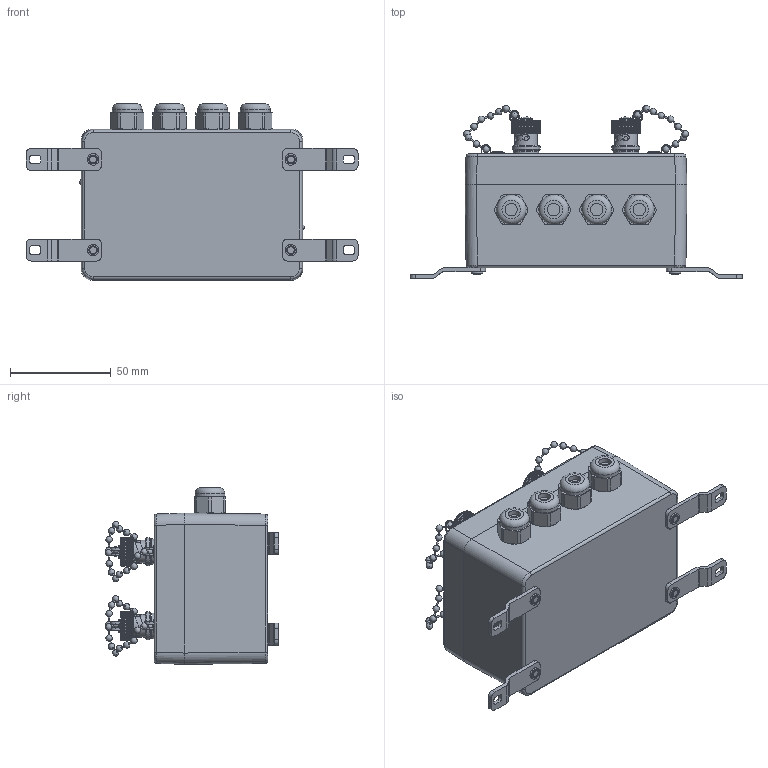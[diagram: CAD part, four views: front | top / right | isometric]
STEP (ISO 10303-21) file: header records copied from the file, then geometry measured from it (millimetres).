
FILE_DESCRIPTION(/* description */ ('REVISED BOM'),/* implementation_level */ '2;1');
FILE_NAME(/* name */ 'C:\Users\jfriend\Desktop\----Step files\Meredith Christman\691A51-04\691A51-04.stp',/* time_stamp */ '2019-12-11T10:22:41-05:00',/* author */ ('jfriend'),/* organization */ (''),/* preprocessor_version */ 'ST-DEVELOPER v17',/* originating_system */ 'Autodesk Inventor 2019',/* authorisation */ '');
FILE_SCHEMA (('AUTOMOTIVE_DESIGN { 1 0 10303 214 3 1 1 }'));
Products named in the file (1): 691A51-04 ENVELOPE
Bounding box: 164.6 x 85.8 x 87.57 mm (x, y, z)
Volume: 476885.9 mm3; surface area: 52833.6 mm2
Topology: 5 solids, 5 shells, 1550 faces, 4454 edges, 2966 vertices
Faces by surface type: plane 846, cylinder 512, cone 96, sphere 52, torus 32, bspline 12
Full cylindrical faces by diameter (mm): 0.635 x40, 2.007 x8, 2.921 x4, 3.302 x4, 4.064 x4, 4.953 x4, 5.08 x4, 5.334 x4, 5.715 x4, 6.096 x4, 9.652 x4, 9.906 x4, 11.303 x4, 12.446 x4, 12.522 x4, 13.894 x4, 14.732 x4
Entity records: 58596 total; most frequent: CARTESIAN_POINT 17535, ORIENTED_EDGE 8804, DIRECTION 7718, EDGE_CURVE 4402, AXIS2_PLACEMENT_3D 2985, VERTEX_POINT 2966, LINE 1748, VECTOR 1748
